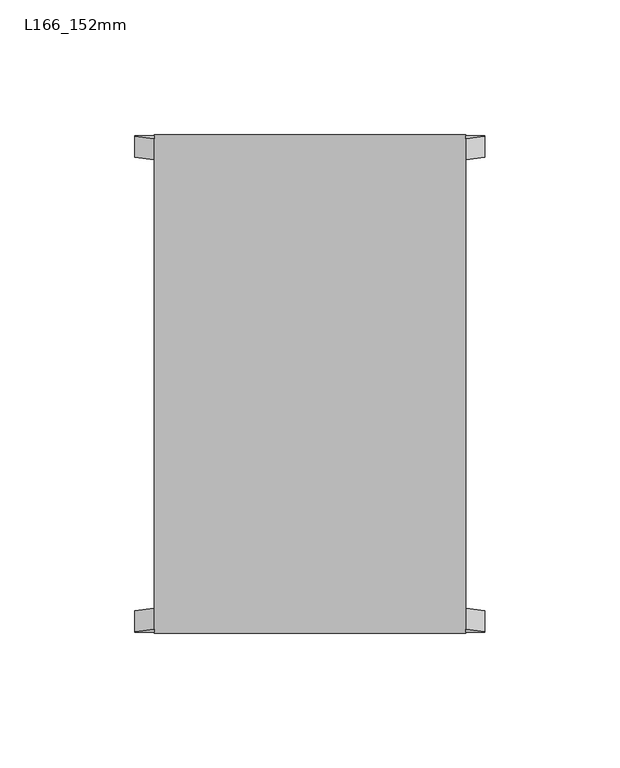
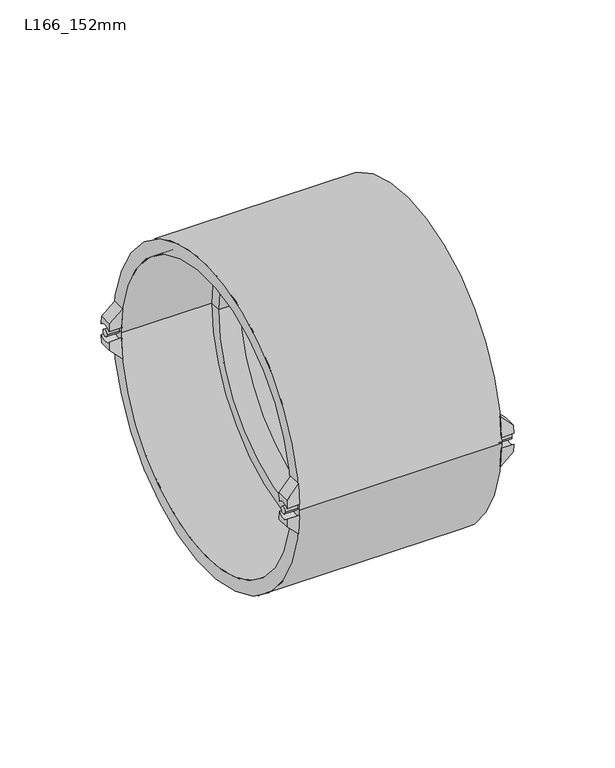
"""IFC4 building model written with IfcOpenShell, lengths in millimetres: pipe fitting geometry, Durapipe_PipeFitting_VulcatheneEnfusion_Coupling_L16 : L166_152mm."""

from ifc_helpers import new_model, si_unit, point, frame, frame_2d, origin, place, context, project, spatial, polyline, circle_curve, ellipse_curve, trimmed, segment, composite_curve, outline, extrude, source, transform, mapped, element, save
from ifc_brep_helpers import plane_surface, cylinder_surface, revolved_surface, advanced_brep


def l166_152mm_a0bbb9d2(model_context):
    return source(origin(), model_context, "Body", "SolidModel", [
        advanced_brep(
        [(-64.85, -84.3923698, 3.1193631), (-64.85, -92.0923698, 3.2585168), (-64.85, -91.8072922, 7.94), (-64.85, -84.0759115, 7.94), (-57.75, -90.9209684, 15.0), (-57.75, -92.0923698, 3.2585168), (-57.75, -84.3923698, 3.1193631), (-57.75, -83.1071748, 15.0)],
        [
            (0, 1, circle_curve(frame((-64.85, -88.3, 0.0), z_axis=(1.0, 0.0, 0.0), x_axis=(0.0, 1.0, 0.0)), 5.0)),
            (1, 2, circle_curve(frame((-64.85, 0.0, 0.0), z_axis=(-1.0, 0.0, 0.0), x_axis=(0.0, 1.0, 0.0)), 92.15)),
            (2, 3),
            (3, 0, circle_curve(frame((-64.85, 0.0, 0.0), z_axis=(1.0, 0.0, 0.0), x_axis=(0.0, 1.0, 0.0)), 84.45)),
            (4, 5, circle_curve(frame((-57.75, 0.0, 0.0), z_axis=(1.0, 0.0, 0.0), x_axis=(0.0, 1.0, 0.0)), 92.15)),
            (5, 6, circle_curve(frame((-57.75, -88.3, 0.0), z_axis=(-1.0, 0.0, 0.0), x_axis=(0.0, 1.0, 0.0)), 5.0)),
            (6, 7, circle_curve(frame((-57.75, 0.0, 0.0), z_axis=(-1.0, 0.0, 0.0), x_axis=(0.0, 1.0, 0.0)), 84.45)),
            (7, 4),
            (6, 0),
            (3, 7, ellipse_curve(frame((-72.8349858, 0.0, 0.0), z_axis=(-0.7051064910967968, 0.0, 0.7091014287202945), x_axis=(0.7091014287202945, 0.0, 0.7051064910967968)), 119.7691428, 84.45)),
            (4, 2, ellipse_curve(frame((-72.8349858, 0.0, 0.0), z_axis=(0.7051064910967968, 0.0, -0.7091014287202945), x_axis=(-0.7091014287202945, 0.0, -0.7051064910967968)), 130.6894791, 92.15)),
            (1, 5),
        ],
        [
            plane_surface(frame((-64.85, -90.9209684, 15.0), z_axis=(-1.0, 0.0, 0.0), x_axis=(0.0, 1.0, 0.0))),
            plane_surface(frame((-57.75, -90.9209684, 15.0), z_axis=(1.0, 0.0, 0.0), x_axis=(0.0, -1.0, 0.0))),
            revolved_surface(polyline([(12.093484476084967, 84.45, 0.0), (-157.76345607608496, 84.45, 0.0)]), (-57.75, 0.0, 0.0), (1.0, 0.0, 0.0)),
            cylinder_surface(frame((-57.75, 0.0, 0.0), z_axis=(-1.0, 0.0, 0.0), x_axis=(0.0, 1.0, 0.0)), 92.15),
            revolved_surface(polyline([(-64.85, -83.3, 0.0), (-57.75, -83.3, 0.0)]), (-57.75, -88.3, 0.0), (-1.0, 0.0, 0.0)),
            plane_surface(frame((-57.75, 92.15, 15.0), z_axis=(-0.7051064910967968, 0.0, 0.7091014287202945), x_axis=(0.0, -1.0, 0.0))),
        ],
        [
            (0, [[1, 2, 3, 4]]),
            (1, [[5, 6, 7, 8]]),
            (2, [[-7, 9, -4, 10]]),
            (3, [[-5, 11, -2, 12]]),
            (4, [[-1, -9, -6, -12]]),
            (5, [[-3, -11, -8, -10]]),
        ],
    ),
        advanced_brep(
        [(-64.85, -92.0923698, -3.2585168), (-64.85, -84.3923698, -3.1193631), (-64.85, -84.0759115, -7.94), (-64.85, -91.8072922, -7.94), (-57.75, -92.0923698, -3.2585168), (-57.75, -90.9209684, -15.0), (-57.75, -83.1071748, -15.0), (-57.75, -84.3923698, -3.1193631)],
        [
            (0, 1, circle_curve(frame((-64.85, -88.3, 0.0), z_axis=(1.0, 0.0, 0.0), x_axis=(0.0, 1.0, 0.0)), 5.0)),
            (1, 2, circle_curve(frame((-64.85, 0.0, 0.0), z_axis=(1.0, 0.0, 0.0), x_axis=(0.0, 1.0, 0.0)), 84.45)),
            (2, 3),
            (3, 0, circle_curve(frame((-64.85, 0.0, 0.0), z_axis=(-1.0, 0.0, 0.0), x_axis=(0.0, 1.0, 0.0)), 92.15)),
            (4, 5, circle_curve(frame((-57.75, 0.0, 0.0), z_axis=(1.0, 0.0, 0.0), x_axis=(0.0, 1.0, 0.0)), 92.15)),
            (5, 6),
            (6, 7, circle_curve(frame((-57.75, 0.0, 0.0), z_axis=(-1.0, 0.0, 0.0), x_axis=(0.0, 1.0, 0.0)), 84.45)),
            (7, 4, circle_curve(frame((-57.75, -88.3, 0.0), z_axis=(-1.0, 0.0, 0.0), x_axis=(0.0, 1.0, 0.0)), 5.0)),
            (6, 2, ellipse_curve(frame((-72.8349858, 0.0, 0.0), z_axis=(-0.7051064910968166, 0.0, -0.7091014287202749), x_axis=(0.7091014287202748, 0.0, -0.7051064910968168)), 119.7691428, 84.45)),
            (1, 7),
            (4, 0),
            (3, 5, ellipse_curve(frame((-72.8349858, 0.0, 0.0), z_axis=(0.7051064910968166, 0.0, 0.7091014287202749), x_axis=(-0.7091014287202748, 0.0, 0.7051064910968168)), 130.6894791, 92.15)),
        ],
        [
            plane_surface(frame((-64.85, -90.9209684, 15.0), z_axis=(-1.0, 0.0, 0.0), x_axis=(0.0, 1.0, 0.0))),
            plane_surface(frame((-57.75, -90.9209684, 15.0), z_axis=(1.0, 0.0, 0.0), x_axis=(0.0, -1.0, 0.0))),
            revolved_surface(polyline([(12.093484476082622, 84.45, 0.0), (-157.7634560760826, 84.45, 0.0)]), (-57.75, 0.0, 0.0), (1.0, 0.0, 0.0)),
            cylinder_surface(frame((-57.75, 0.0, 0.0), z_axis=(-1.0, 0.0, 0.0), x_axis=(0.0, 1.0, 0.0)), 92.15),
            revolved_surface(polyline([(-64.85, -83.3, 0.0), (-57.75, -83.3, 0.0)]), (-57.75, -88.3, 0.0), (-1.0, 0.0, 0.0)),
            plane_surface(frame((-64.85, 92.15, -7.94), z_axis=(-0.7051064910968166, 0.0, -0.7091014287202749), x_axis=(0.0, -1.0, 0.0))),
        ],
        [
            (0, [[1, 2, 3, 4]]),
            (1, [[5, 6, 7, 8]]),
            (2, [[-7, 9, -2, 10]]),
            (3, [[-5, 11, -4, 12]]),
            (4, [[-1, -11, -8, -10]]),
            (5, [[-3, -9, -6, -12]]),
        ],
    ),
        advanced_brep(
        [(-64.85, 92.0923698, 3.2585168), (-64.85, 84.3923698, 3.1193631), (-64.85, 84.0759115, 7.94), (-64.85, 91.8072922, 7.94), (-57.75, 92.0923698, 3.2585168), (-57.75, 90.9209684, 15.0), (-57.75, 83.1071748, 15.0), (-57.75, 84.3923698, 3.1193631)],
        [
            (0, 1, circle_curve(frame((-64.85, 88.3, 0.0), z_axis=(1.0, 0.0, 0.0), x_axis=(0.0, 1.0, 0.0)), 5.0)),
            (1, 2, circle_curve(frame((-64.85, 0.0, 0.0), z_axis=(1.0, 0.0, 0.0), x_axis=(0.0, 1.0, 0.0)), 84.45)),
            (2, 3),
            (3, 0, circle_curve(frame((-64.85, 0.0, 0.0), z_axis=(-1.0, 0.0, 0.0), x_axis=(0.0, 1.0, 0.0)), 92.15)),
            (4, 5, circle_curve(frame((-57.75, 0.0, 0.0), z_axis=(1.0, 0.0, 0.0), x_axis=(0.0, 1.0, 0.0)), 92.15)),
            (5, 6),
            (6, 7, circle_curve(frame((-57.75, 0.0, 0.0), z_axis=(-1.0, 0.0, 0.0), x_axis=(0.0, 1.0, 0.0)), 84.45)),
            (7, 4, circle_curve(frame((-57.75, 88.3, 0.0), z_axis=(-1.0, 0.0, 0.0), x_axis=(0.0, 1.0, 0.0)), 5.0)),
            (6, 2, ellipse_curve(frame((-72.8349858, 0.0, 0.0), z_axis=(-0.7051064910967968, 0.0, 0.7091014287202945), x_axis=(0.7091014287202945, 0.0, 0.7051064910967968)), 119.7691428, 84.45)),
            (1, 7),
            (4, 0),
            (3, 5, ellipse_curve(frame((-72.8349858, 0.0, 0.0), z_axis=(0.7051064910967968, 0.0, -0.7091014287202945), x_axis=(-0.7091014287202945, 0.0, -0.7051064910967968)), 130.6894791, 92.15)),
        ],
        [
            plane_surface(frame((-64.85, -90.9209684, 15.0), z_axis=(-1.0, 0.0, 0.0), x_axis=(0.0, 1.0, 0.0))),
            plane_surface(frame((-57.75, -90.9209684, 15.0), z_axis=(1.0, 0.0, 0.0), x_axis=(0.0, -1.0, 0.0))),
            revolved_surface(polyline([(12.093484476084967, 84.45, 0.0), (-157.76345607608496, 84.45, 0.0)]), (-57.75, 0.0, 0.0), (1.0, 0.0, 0.0)),
            cylinder_surface(frame((-57.75, 0.0, 0.0), z_axis=(-1.0, 0.0, 0.0), x_axis=(0.0, 1.0, 0.0)), 92.15),
            revolved_surface(polyline([(-64.85, 93.3, 0.0), (-57.75, 93.3, 0.0)]), (-57.75, 88.3, 0.0), (-1.0, 0.0, 0.0)),
            plane_surface(frame((-57.75, 92.15, 15.0), z_axis=(-0.7051064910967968, 0.0, 0.7091014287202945), x_axis=(0.0, -1.0, 0.0))),
        ],
        [
            (0, [[1, 2, 3, 4]]),
            (1, [[5, 6, 7, 8]]),
            (2, [[-7, 9, -2, 10]]),
            (3, [[-5, 11, -4, 12]]),
            (4, [[-1, -11, -8, -10]]),
            (5, [[-3, -9, -6, -12]]),
        ],
    ),
        advanced_brep(
        [(-64.85, 84.3923698, -3.1193631), (-64.85, 92.0923698, -3.2585168), (-64.85, 91.8072922, -7.94), (-64.85, 84.0759115, -7.94), (-57.75, 90.9209684, -15.0), (-57.75, 92.0923698, -3.2585168), (-57.75, 84.3923698, -3.1193631), (-57.75, 83.1071748, -15.0)],
        [
            (0, 1, circle_curve(frame((-64.85, 88.3, 0.0), z_axis=(1.0, 0.0, 0.0), x_axis=(0.0, 1.0, 0.0)), 5.0)),
            (1, 2, circle_curve(frame((-64.85, 0.0, 0.0), z_axis=(-1.0, 0.0, 0.0), x_axis=(0.0, 1.0, 0.0)), 92.15)),
            (2, 3),
            (3, 0, circle_curve(frame((-64.85, 0.0, 0.0), z_axis=(1.0, 0.0, 0.0), x_axis=(0.0, 1.0, 0.0)), 84.45)),
            (4, 5, circle_curve(frame((-57.75, 0.0, 0.0), z_axis=(1.0, 0.0, 0.0), x_axis=(0.0, 1.0, 0.0)), 92.15)),
            (5, 6, circle_curve(frame((-57.75, 88.3, 0.0), z_axis=(-1.0, 0.0, 0.0), x_axis=(0.0, 1.0, 0.0)), 5.0)),
            (6, 7, circle_curve(frame((-57.75, 0.0, 0.0), z_axis=(-1.0, 0.0, 0.0), x_axis=(0.0, 1.0, 0.0)), 84.45)),
            (7, 4),
            (6, 0),
            (3, 7, ellipse_curve(frame((-72.8349858, 0.0, 0.0), z_axis=(-0.7051064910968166, 0.0, -0.7091014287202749), x_axis=(0.7091014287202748, 0.0, -0.7051064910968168)), 119.7691428, 84.45)),
            (4, 2, ellipse_curve(frame((-72.8349858, 0.0, 0.0), z_axis=(0.7051064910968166, 0.0, 0.7091014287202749), x_axis=(-0.7091014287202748, 0.0, 0.7051064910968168)), 130.6894791, 92.15)),
            (1, 5),
        ],
        [
            plane_surface(frame((-64.85, -90.9209684, 15.0), z_axis=(-1.0, 0.0, 0.0), x_axis=(0.0, 1.0, 0.0))),
            plane_surface(frame((-57.75, -90.9209684, 15.0), z_axis=(1.0, 0.0, 0.0), x_axis=(0.0, -1.0, 0.0))),
            revolved_surface(polyline([(12.093484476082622, 84.45, 0.0), (-157.7634560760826, 84.45, 0.0)]), (-57.75, 0.0, 0.0), (1.0, 0.0, 0.0)),
            cylinder_surface(frame((-57.75, 0.0, 0.0), z_axis=(-1.0, 0.0, 0.0), x_axis=(0.0, 1.0, 0.0)), 92.15),
            revolved_surface(polyline([(-64.85, 93.3, 0.0), (-57.75, 93.3, 0.0)]), (-57.75, 88.3, 0.0), (-1.0, 0.0, 0.0)),
            plane_surface(frame((-64.85, 92.15, -7.94), z_axis=(-0.7051064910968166, 0.0, -0.7091014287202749), x_axis=(0.0, -1.0, 0.0))),
        ],
        [
            (0, [[1, 2, 3, 4]]),
            (1, [[5, 6, 7, 8]]),
            (2, [[-7, 9, -4, 10]]),
            (3, [[-5, 11, -2, 12]]),
            (4, [[-1, -9, -6, -12]]),
            (5, [[-3, -11, -8, -10]]),
        ],
    ),
        extrude(outline(composite_curve([segment(trimmed(circle_curve(frame_2d((-88.3, 0.0)), 2.0), [point((-90.3, 0.0))], [point((-86.3, 0.0))], False, "CARTESIAN"), True, "CONTINUOUS"), segment(trimmed(circle_curve(frame_2d((-88.3, 0.0)), 2.0), [point((-86.3, 0.0))], [point((-90.3, 0.0))], False, "CARTESIAN"), True, "CONTINUOUS")], self_intersect=False)), frame((-64.85, 0.0, 0.0), z_axis=(1.0, 0.0, 0.0), x_axis=(0.0, 1.0, 0.0)), (0.0, 0.0, 1.0), 7.1),
        extrude(outline(composite_curve([segment(trimmed(circle_curve(frame_2d((88.3, 0.0)), 2.0), [point((86.3, 0.0))], [point((90.3, 0.0))], False, "CARTESIAN"), True, "CONTINUOUS"), segment(trimmed(circle_curve(frame_2d((88.3, 0.0)), 2.0), [point((90.3, 0.0))], [point((86.3, 0.0))], False, "CARTESIAN"), True, "CONTINUOUS")], self_intersect=False)), frame((-64.85, 0.0, 0.0), z_axis=(1.0, 0.0, 0.0), x_axis=(0.0, 1.0, 0.0)), (0.0, 0.0, 1.0), 7.1),
        advanced_brep(
        [(64.85, -84.3923698, -3.1193631), (64.85, -92.0923698, -3.2585168), (64.85, -91.8072922, -7.94), (64.85, -84.0759115, -7.94), (57.75, -90.9209684, -15.0), (57.75, -92.0923698, -3.2585168), (57.75, -84.3923698, -3.1193631), (57.75, -83.1071748, -15.0)],
        [
            (0, 1, circle_curve(frame((64.85, -88.3, 0.0), z_axis=(-1.0, 0.0, 0.0), x_axis=(0.0, 1.0, 0.0)), 5.0)),
            (1, 2, circle_curve(frame((64.85, 0.0, 0.0), z_axis=(1.0, 0.0, 0.0), x_axis=(0.0, 1.0, 0.0)), 92.15)),
            (2, 3),
            (3, 0, circle_curve(frame((64.85, 0.0, 0.0), z_axis=(-1.0, 0.0, 0.0), x_axis=(0.0, 1.0, 0.0)), 84.45)),
            (4, 5, circle_curve(frame((57.75, 0.0, 0.0), z_axis=(-1.0, 0.0, 0.0), x_axis=(0.0, 1.0, 0.0)), 92.15)),
            (5, 6, circle_curve(frame((57.75, -88.3, 0.0), z_axis=(1.0, 0.0, 0.0), x_axis=(0.0, 1.0, 0.0)), 5.0)),
            (6, 7, circle_curve(frame((57.75, 0.0, 0.0), z_axis=(1.0, 0.0, 0.0), x_axis=(0.0, 1.0, 0.0)), 84.45)),
            (7, 4),
            (6, 0),
            (3, 7, ellipse_curve(frame((72.8349858, 0.0, 0.0), z_axis=(0.7051064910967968, 0.0, -0.7091014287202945), x_axis=(-0.7091014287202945, 0.0, -0.7051064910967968)), 119.7691428, 84.45)),
            (4, 2, ellipse_curve(frame((72.8349858, 0.0, 0.0), z_axis=(-0.7051064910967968, 0.0, 0.7091014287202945), x_axis=(0.7091014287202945, 0.0, 0.7051064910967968)), 130.6894791, 92.15)),
            (1, 5),
        ],
        [
            plane_surface(frame((64.85, -90.9209684, -15.0), z_axis=(1.0, 0.0, 0.0), x_axis=(0.0, 1.0, 0.0))),
            plane_surface(frame((57.75, -90.9209684, -15.0), z_axis=(-1.0, 0.0, 0.0), x_axis=(0.0, -1.0, 0.0))),
            revolved_surface(polyline([(-12.093484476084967, 84.45, 0.0), (157.76345607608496, 84.45, 0.0)]), (57.75, 0.0, 0.0), (-1.0, 0.0, 0.0)),
            cylinder_surface(frame((57.75, 0.0, 0.0), z_axis=(1.0, 0.0, 0.0), x_axis=(0.0, 1.0, 0.0)), 92.15),
            revolved_surface(polyline([(64.85, -83.3, 0.0), (57.75, -83.3, 0.0)]), (57.75, -88.3, 0.0), (1.0, 0.0, 0.0)),
            plane_surface(frame((57.75, 92.15, -15.0), z_axis=(0.7051064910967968, 0.0, -0.7091014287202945), x_axis=(0.0, -1.0, 0.0))),
        ],
        [
            (0, [[1, 2, 3, 4]]),
            (1, [[5, 6, 7, 8]]),
            (2, [[-7, 9, -4, 10]]),
            (3, [[-5, 11, -2, 12]]),
            (4, [[-1, -9, -6, -12]]),
            (5, [[-3, -11, -8, -10]]),
        ],
    ),
        advanced_brep(
        [(64.85, -92.0923698, 3.2585168), (64.85, -84.3923698, 3.1193631), (64.85, -84.0759115, 7.94), (64.85, -91.8072922, 7.94), (57.75, -92.0923698, 3.2585168), (57.75, -90.9209684, 15.0), (57.75, -83.1071748, 15.0), (57.75, -84.3923698, 3.1193631)],
        [
            (0, 1, circle_curve(frame((64.85, -88.3, 0.0), z_axis=(-1.0, 0.0, 0.0), x_axis=(0.0, 1.0, 0.0)), 5.0)),
            (1, 2, circle_curve(frame((64.85, 0.0, 0.0), z_axis=(-1.0, 0.0, 0.0), x_axis=(0.0, 1.0, 0.0)), 84.45)),
            (2, 3),
            (3, 0, circle_curve(frame((64.85, 0.0, 0.0), z_axis=(1.0, 0.0, 0.0), x_axis=(0.0, 1.0, 0.0)), 92.15)),
            (4, 5, circle_curve(frame((57.75, 0.0, 0.0), z_axis=(-1.0, 0.0, 0.0), x_axis=(0.0, 1.0, 0.0)), 92.15)),
            (5, 6),
            (6, 7, circle_curve(frame((57.75, 0.0, 0.0), z_axis=(1.0, 0.0, 0.0), x_axis=(0.0, 1.0, 0.0)), 84.45)),
            (7, 4, circle_curve(frame((57.75, -88.3, 0.0), z_axis=(1.0, 0.0, 0.0), x_axis=(0.0, 1.0, 0.0)), 5.0)),
            (6, 2, ellipse_curve(frame((72.8349858, 0.0, 0.0), z_axis=(0.7051064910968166, 0.0, 0.7091014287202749), x_axis=(-0.7091014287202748, 0.0, 0.7051064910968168)), 119.7691428, 84.45)),
            (1, 7),
            (4, 0),
            (3, 5, ellipse_curve(frame((72.8349858, 0.0, 0.0), z_axis=(-0.7051064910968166, 0.0, -0.7091014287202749), x_axis=(0.7091014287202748, 0.0, -0.7051064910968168)), 130.6894791, 92.15)),
        ],
        [
            plane_surface(frame((64.85, -90.9209684, -15.0), z_axis=(1.0, 0.0, 0.0), x_axis=(0.0, 1.0, 0.0))),
            plane_surface(frame((57.75, -90.9209684, -15.0), z_axis=(-1.0, 0.0, 0.0), x_axis=(0.0, -1.0, 0.0))),
            revolved_surface(polyline([(-12.093484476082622, 84.45, 0.0), (157.7634560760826, 84.45, 0.0)]), (57.75, 0.0, 0.0), (-1.0, 0.0, 0.0)),
            cylinder_surface(frame((57.75, 0.0, 0.0), z_axis=(1.0, 0.0, 0.0), x_axis=(0.0, 1.0, 0.0)), 92.15),
            revolved_surface(polyline([(64.85, -83.3, 0.0), (57.75, -83.3, 0.0)]), (57.75, -88.3, 0.0), (1.0, 0.0, 0.0)),
            plane_surface(frame((64.85, 92.15, 7.94), z_axis=(0.7051064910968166, 0.0, 0.7091014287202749), x_axis=(0.0, -1.0, 0.0))),
        ],
        [
            (0, [[1, 2, 3, 4]]),
            (1, [[5, 6, 7, 8]]),
            (2, [[-7, 9, -2, 10]]),
            (3, [[-5, 11, -4, 12]]),
            (4, [[-1, -11, -8, -10]]),
            (5, [[-3, -9, -6, -12]]),
        ],
    ),
        advanced_brep(
        [(64.85, 92.0923698, -3.2585168), (64.85, 84.3923698, -3.1193631), (64.85, 84.0759115, -7.94), (64.85, 91.8072922, -7.94), (57.75, 92.0923698, -3.2585168), (57.75, 90.9209684, -15.0), (57.75, 83.1071748, -15.0), (57.75, 84.3923698, -3.1193631)],
        [
            (0, 1, circle_curve(frame((64.85, 88.3, 0.0), z_axis=(-1.0, 0.0, 0.0), x_axis=(0.0, 1.0, 0.0)), 5.0)),
            (1, 2, circle_curve(frame((64.85, 0.0, 0.0), z_axis=(-1.0, 0.0, 0.0), x_axis=(0.0, 1.0, 0.0)), 84.45)),
            (2, 3),
            (3, 0, circle_curve(frame((64.85, 0.0, 0.0), z_axis=(1.0, 0.0, 0.0), x_axis=(0.0, 1.0, 0.0)), 92.15)),
            (4, 5, circle_curve(frame((57.75, 0.0, 0.0), z_axis=(-1.0, 0.0, 0.0), x_axis=(0.0, 1.0, 0.0)), 92.15)),
            (5, 6),
            (6, 7, circle_curve(frame((57.75, 0.0, 0.0), z_axis=(1.0, 0.0, 0.0), x_axis=(0.0, 1.0, 0.0)), 84.45)),
            (7, 4, circle_curve(frame((57.75, 88.3, 0.0), z_axis=(1.0, 0.0, 0.0), x_axis=(0.0, 1.0, 0.0)), 5.0)),
            (6, 2, ellipse_curve(frame((72.8349858, 0.0, 0.0), z_axis=(0.7051064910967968, 0.0, -0.7091014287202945), x_axis=(-0.7091014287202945, 0.0, -0.7051064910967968)), 119.7691428, 84.45)),
            (1, 7),
            (4, 0),
            (3, 5, ellipse_curve(frame((72.8349858, 0.0, 0.0), z_axis=(-0.7051064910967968, 0.0, 0.7091014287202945), x_axis=(0.7091014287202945, 0.0, 0.7051064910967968)), 130.6894791, 92.15)),
        ],
        [
            plane_surface(frame((64.85, -90.9209684, -15.0), z_axis=(1.0, 0.0, 0.0), x_axis=(0.0, 1.0, 0.0))),
            plane_surface(frame((57.75, -90.9209684, -15.0), z_axis=(-1.0, 0.0, 0.0), x_axis=(0.0, -1.0, 0.0))),
            revolved_surface(polyline([(-12.093484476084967, 84.45, 0.0), (157.76345607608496, 84.45, 0.0)]), (57.75, 0.0, 0.0), (-1.0, 0.0, 0.0)),
            cylinder_surface(frame((57.75, 0.0, 0.0), z_axis=(1.0, 0.0, 0.0), x_axis=(0.0, 1.0, 0.0)), 92.15),
            revolved_surface(polyline([(64.85, 93.3, 0.0), (57.75, 93.3, 0.0)]), (57.75, 88.3, 0.0), (1.0, 0.0, 0.0)),
            plane_surface(frame((57.75, 92.15, -15.0), z_axis=(0.7051064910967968, 0.0, -0.7091014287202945), x_axis=(0.0, -1.0, 0.0))),
        ],
        [
            (0, [[1, 2, 3, 4]]),
            (1, [[5, 6, 7, 8]]),
            (2, [[-7, 9, -2, 10]]),
            (3, [[-5, 11, -4, 12]]),
            (4, [[-1, -11, -8, -10]]),
            (5, [[-3, -9, -6, -12]]),
        ],
    ),
        advanced_brep(
        [(64.85, 84.3923698, 3.1193631), (64.85, 92.0923698, 3.2585168), (64.85, 91.8072922, 7.94), (64.85, 84.0759115, 7.94), (57.75, 90.9209684, 15.0), (57.75, 92.0923698, 3.2585168), (57.75, 84.3923698, 3.1193631), (57.75, 83.1071748, 15.0)],
        [
            (0, 1, circle_curve(frame((64.85, 88.3, 0.0), z_axis=(-1.0, 0.0, 0.0), x_axis=(0.0, 1.0, 0.0)), 5.0)),
            (1, 2, circle_curve(frame((64.85, 0.0, 0.0), z_axis=(1.0, 0.0, 0.0), x_axis=(0.0, 1.0, 0.0)), 92.15)),
            (2, 3),
            (3, 0, circle_curve(frame((64.85, 0.0, 0.0), z_axis=(-1.0, 0.0, 0.0), x_axis=(0.0, 1.0, 0.0)), 84.45)),
            (4, 5, circle_curve(frame((57.75, 0.0, 0.0), z_axis=(-1.0, 0.0, 0.0), x_axis=(0.0, 1.0, 0.0)), 92.15)),
            (5, 6, circle_curve(frame((57.75, 88.3, 0.0), z_axis=(1.0, 0.0, 0.0), x_axis=(0.0, 1.0, 0.0)), 5.0)),
            (6, 7, circle_curve(frame((57.75, 0.0, 0.0), z_axis=(1.0, 0.0, 0.0), x_axis=(0.0, 1.0, 0.0)), 84.45)),
            (7, 4),
            (6, 0),
            (3, 7, ellipse_curve(frame((72.8349858, 0.0, 0.0), z_axis=(0.7051064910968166, 0.0, 0.7091014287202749), x_axis=(-0.7091014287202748, 0.0, 0.7051064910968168)), 119.7691428, 84.45)),
            (4, 2, ellipse_curve(frame((72.8349858, 0.0, 0.0), z_axis=(-0.7051064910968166, 0.0, -0.7091014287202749), x_axis=(0.7091014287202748, 0.0, -0.7051064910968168)), 130.6894791, 92.15)),
            (1, 5),
        ],
        [
            plane_surface(frame((64.85, -90.9209684, -15.0), z_axis=(1.0, 0.0, 0.0), x_axis=(0.0, 1.0, 0.0))),
            plane_surface(frame((57.75, -90.9209684, -15.0), z_axis=(-1.0, 0.0, 0.0), x_axis=(0.0, -1.0, 0.0))),
            revolved_surface(polyline([(-12.093484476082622, 84.45, 0.0), (157.7634560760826, 84.45, 0.0)]), (57.75, 0.0, 0.0), (-1.0, 0.0, 0.0)),
            cylinder_surface(frame((57.75, 0.0, 0.0), z_axis=(1.0, 0.0, 0.0), x_axis=(0.0, 1.0, 0.0)), 92.15),
            revolved_surface(polyline([(64.85, 93.3, 0.0), (57.75, 93.3, 0.0)]), (57.75, 88.3, 0.0), (1.0, 0.0, 0.0)),
            plane_surface(frame((64.85, 92.15, 7.94), z_axis=(0.7051064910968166, 0.0, 0.7091014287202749), x_axis=(0.0, -1.0, 0.0))),
        ],
        [
            (0, [[1, 2, 3, 4]]),
            (1, [[5, 6, 7, 8]]),
            (2, [[-7, 9, -4, 10]]),
            (3, [[-5, 11, -2, 12]]),
            (4, [[-1, -9, -6, -12]]),
            (5, [[-3, -11, -8, -10]]),
        ],
    ),
        extrude(outline(composite_curve([segment(trimmed(circle_curve(frame_2d((-88.3, 0.0)), 2.0), [point((-90.3, 0.0))], [point((-86.3, 0.0))], False, "CARTESIAN"), True, "CONTINUOUS"), segment(trimmed(circle_curve(frame_2d((-88.3, 0.0)), 2.0), [point((-86.3, 0.0))], [point((-90.3, 0.0))], False, "CARTESIAN"), True, "CONTINUOUS")], self_intersect=False)), frame((57.75, 0.0, 0.0), z_axis=(1.0, 0.0, 0.0), x_axis=(0.0, 1.0, 0.0)), (0.0, 0.0, 1.0), 7.1),
        extrude(outline(composite_curve([segment(trimmed(circle_curve(frame_2d((88.3, 0.0)), 2.0), [point((86.3, 0.0))], [point((90.3, 0.0))], False, "CARTESIAN"), True, "CONTINUOUS"), segment(trimmed(circle_curve(frame_2d((88.3, 0.0)), 2.0), [point((90.3, 0.0))], [point((86.3, 0.0))], False, "CARTESIAN"), True, "CONTINUOUS")], self_intersect=False)), frame((57.75, 0.0, 0.0), z_axis=(1.0, 0.0, 0.0), x_axis=(0.0, 1.0, 0.0)), (0.0, 0.0, 1.0), 7.1),
        advanced_brep(
        [(-6.25, -84.3, 0.0), (-6.25, 84.3, 0.0), (-57.75, 84.3, 0.0), (-57.75, -84.3, 0.0), (-6.25, -77.5, 0.0), (-6.25, 77.5, 0.0), (6.25, -77.5, 0.0), (6.25, 77.5, 0.0), (6.25, -84.3, 0.0), (6.25, 84.3, 0.0), (57.75, -84.3, 0.0), (57.75, 84.3, 0.0), (57.75, -92.3, 0.0), (57.75, 92.3, 0.0), (-57.75, -92.3, 0.0), (-57.75, 92.3, 0.0)],
        [
            (0, 1, circle_curve(frame((-6.25, 0.0, 0.0), z_axis=(1.0, 0.0, 0.0), x_axis=(0.0, 1.0, 0.0)), 84.3)),
            (1, 2),
            (2, 3, circle_curve(frame((-57.75, 0.0, 0.0), z_axis=(-1.0, 0.0, 0.0), x_axis=(0.0, 1.0, 0.0)), 84.3)),
            (3, 0),
            (1, 0, circle_curve(frame((-6.25, 0.0, 0.0), z_axis=(1.0, 0.0, 0.0), x_axis=(0.0, 1.0, 0.0)), 84.3)),
            (3, 2, circle_curve(frame((-57.75, 0.0, 0.0), z_axis=(-1.0, 0.0, 0.0), x_axis=(0.0, 1.0, 0.0)), 84.3)),
            (4, 5, circle_curve(frame((-6.25, 0.0, 0.0), z_axis=(1.0, 0.0, 0.0), x_axis=(0.0, 1.0, 0.0)), 77.5)),
            (5, 1),
            (0, 4),
            (5, 4, circle_curve(frame((-6.25, 0.0, 0.0), z_axis=(1.0, 0.0, 0.0), x_axis=(0.0, 1.0, 0.0)), 77.5)),
            (6, 7, circle_curve(frame((6.25, 0.0, 0.0), z_axis=(1.0, 0.0, 0.0), x_axis=(0.0, 1.0, 0.0)), 77.5)),
            (7, 5),
            (4, 6),
            (7, 6, circle_curve(frame((6.25, 0.0, 0.0), z_axis=(1.0, 0.0, 0.0), x_axis=(0.0, 1.0, 0.0)), 77.5)),
            (8, 9, circle_curve(frame((6.25, 0.0, 0.0), z_axis=(1.0, 0.0, 0.0), x_axis=(0.0, 1.0, 0.0)), 84.3)),
            (9, 7),
            (6, 8),
            (9, 8, circle_curve(frame((6.25, 0.0, 0.0), z_axis=(1.0, 0.0, 0.0), x_axis=(0.0, 1.0, 0.0)), 84.3)),
            (10, 11, circle_curve(frame((57.75, 0.0, 0.0), z_axis=(1.0, 0.0, 0.0), x_axis=(0.0, 1.0, 0.0)), 84.3)),
            (11, 9),
            (8, 10),
            (11, 10, circle_curve(frame((57.75, 0.0, 0.0), z_axis=(1.0, 0.0, 0.0), x_axis=(0.0, 1.0, 0.0)), 84.3)),
            (12, 13, circle_curve(frame((57.75, 0.0, 0.0), z_axis=(1.0, 0.0, 0.0), x_axis=(0.0, 1.0, 0.0)), 92.3)),
            (13, 11),
            (10, 12),
            (13, 12, circle_curve(frame((57.75, 0.0, 0.0), z_axis=(1.0, 0.0, 0.0), x_axis=(0.0, 1.0, 0.0)), 92.3)),
            (14, 15, circle_curve(frame((-57.75, 0.0, 0.0), z_axis=(1.0, 0.0, 0.0), x_axis=(0.0, 1.0, 0.0)), 92.3)),
            (15, 13),
            (12, 14),
            (15, 14, circle_curve(frame((-57.75, 0.0, 0.0), z_axis=(1.0, 0.0, 0.0), x_axis=(0.0, 1.0, 0.0)), 92.3)),
            (2, 15),
            (14, 3),
        ],
        [
            revolved_surface(polyline([(-57.75, 84.3, 0.0), (-6.25, 84.3, 0.0)]), (1606.9896958, 0.0, 0.0), (-1.0, 0.0, 0.0)),
            plane_surface(frame((-6.25, 0.0, 0.0), z_axis=(-1.0, 0.0, 0.0), x_axis=(0.0, 1.0, 0.0))),
            revolved_surface(polyline([(-6.25, 77.5, 0.0), (6.25, 77.5, 0.0)]), (1606.9896958, 0.0, 0.0), (-1.0, 0.0, 0.0)),
            plane_surface(frame((6.25, 0.0, 0.0), z_axis=(1.0, 0.0, 0.0), x_axis=(0.0, 1.0, 0.0))),
            revolved_surface(polyline([(6.25, 84.3, 0.0), (57.75, 84.3, 0.0)]), (1606.9896958, 0.0, 0.0), (-1.0, 0.0, 0.0)),
            plane_surface(frame((57.75, 0.0, 0.0), z_axis=(1.0, 0.0, 0.0), x_axis=(0.0, 1.0, 0.0))),
            cylinder_surface(frame((1606.9896958, 0.0, 0.0), z_axis=(-1.0, 0.0, 0.0), x_axis=(0.0, 1.0, 0.0)), 92.3),
            plane_surface(frame((-57.75, 0.0, 0.0), z_axis=(-1.0, 0.0, 0.0), x_axis=(0.0, 1.0, 0.0))),
        ],
        [
            (0, [[1, 2, 3, 4]]),
            (0, [[5, -4, 6, -2]]),
            (1, [[7, 8, -1, 9]]),
            (1, [[10, -9, -5, -8]]),
            (2, [[11, 12, -7, 13]]),
            (2, [[14, -13, -10, -12]]),
            (3, [[15, 16, -11, 17]]),
            (3, [[18, -17, -14, -16]]),
            (4, [[19, 20, -15, 21]]),
            (4, [[22, -21, -18, -20]]),
            (5, [[23, 24, -19, 25]]),
            (5, [[26, -25, -22, -24]]),
            (6, [[27, 28, -23, 29]]),
            (6, [[30, -29, -26, -28]]),
            (7, [[-3, 31, -27, 32]]),
            (7, [[-6, -32, -30, -31]]),
        ],
    ),
    ])


if __name__ == "__main__":
    model = new_model("IFC4")
    model_context = context("Model", 3, world=origin())
    ifc_project = project(units=[si_unit("LENGTHUNIT", "METRE", prefix="MILLI")], contexts=[model_context])
    site = spatial("IfcSite", under=ifc_project)
    building = spatial("IfcBuilding", under=site)
    placement = place(None, origin())
    l166_152mm_shape = l166_152mm_a0bbb9d2(model_context)
    element("IfcPipeFitting", 1, ObjectType="Durapipe_PipeFitting_VulcatheneEnfusion_Coupling_L16 : L166_152mm", at=placement, inside=building, context=model_context, shape_type="MappedRepresentation", body=[
        mapped(l166_152mm_shape, transform((0.0, 0.0, 0.0), x_axis=(1.0, 0.0, 0.0), y_axis=(0.0, 1.0, 0.0), z_axis=(0.0, 0.0, 1.0))),
    ])
    save(model, "model.ifc")
